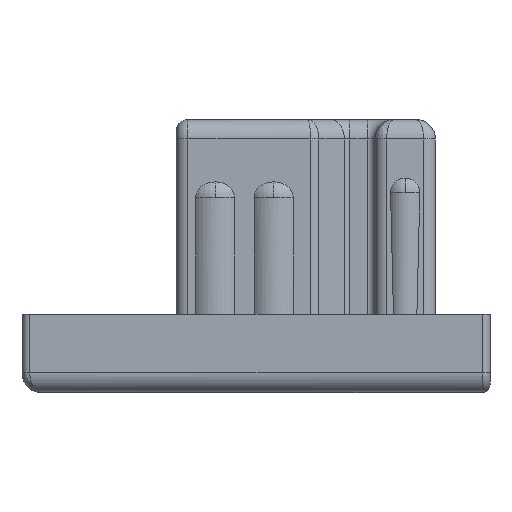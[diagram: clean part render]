
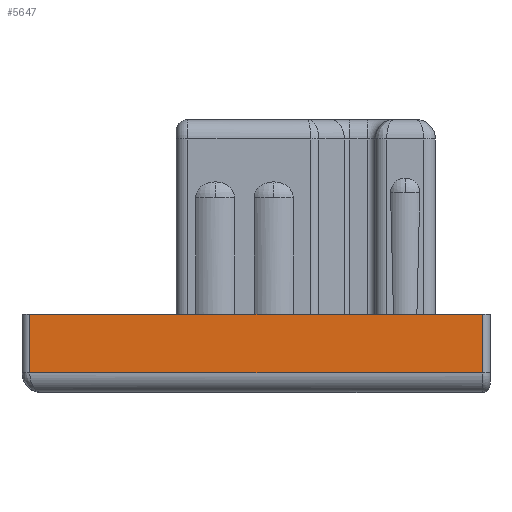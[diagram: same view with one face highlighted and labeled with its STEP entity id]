
A CAD part, left-side view. The second image highlights one B-rep face of the part: STEP entity #5647.
In plain terms, the highlighted planar face has unit normal (-1, 0, 0).
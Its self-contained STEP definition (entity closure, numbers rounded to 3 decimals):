
#30 = EDGE_CURVE ( 'NONE', #6288, #5274, #2750, .T. ) ;
#362 = DIRECTION ( 'NONE',  ( 1., 0., 0. ) ) ;
#562 = ORIENTED_EDGE ( 'NONE', *, *, #3655, .T. ) ;
#1160 = PLANE ( 'NONE',  #5061 ) ;
#1187 = VECTOR ( 'NONE', #1803, 1000. ) ;
#1803 = DIRECTION ( 'NONE',  ( 0., -1., 0. ) ) ;
#1935 = FACE_OUTER_BOUND ( 'NONE', #7977, .T. ) ;
#2003 = VECTOR ( 'NONE', #4057, 1000. ) ;
#2312 = CARTESIAN_POINT ( 'NONE',  ( -6.5, 12., 0.5 ) ) ;
#2544 = CARTESIAN_POINT ( 'NONE',  ( -6.5, 0.2, 2. ) ) ;
#2750 = LINE ( 'NONE', #10509, #1187 ) ;
#3655 = EDGE_CURVE ( 'NONE', #4766, #5274, #11047, .T. ) ;
#3810 = EDGE_CURVE ( 'NONE', #7503, #4766, #5664, .T. ) ;
#4057 = DIRECTION ( 'NONE',  ( 0., -1., 0. ) ) ;
#4282 = CARTESIAN_POINT ( 'NONE',  ( -6.5, 0.2, 0.5 ) ) ;
#4515 = VECTOR ( 'NONE', #5949, 1000. ) ;
#4536 = ORIENTED_EDGE ( 'NONE', *, *, #30, .F. ) ;
#4648 = CARTESIAN_POINT ( 'NONE',  ( -6.5, 11.8, 2. ) ) ;
#4766 = VERTEX_POINT ( 'NONE', #4282 ) ;
#5061 = AXIS2_PLACEMENT_3D ( 'NONE', #5382, #362, #7170 ) ;
#5092 = ORIENTED_EDGE ( 'NONE', *, *, #3810, .T. ) ;
#5132 = CARTESIAN_POINT ( 'NONE',  ( -6.5, 11.8, 0.5 ) ) ;
#5274 = VERTEX_POINT ( 'NONE', #6466 ) ;
#5382 = CARTESIAN_POINT ( 'NONE',  ( -6.5, 12., 2. ) ) ;
#5647 = ADVANCED_FACE ( 'NONE', ( #1935 ), #1160, .F. ) ;
#5664 = LINE ( 'NONE', #2312, #2003 ) ;
#5949 = DIRECTION ( 'NONE',  ( 0., 0., 1. ) ) ;
#6062 = EDGE_CURVE ( 'NONE', #6288, #7503, #9951, .T. ) ;
#6288 = VERTEX_POINT ( 'NONE', #10391 ) ;
#6466 = CARTESIAN_POINT ( 'NONE',  ( -6.5, 0.2, 2. ) ) ;
#7170 = DIRECTION ( 'NONE',  ( 0., 1., 0. ) ) ;
#7503 = VERTEX_POINT ( 'NONE', #5132 ) ;
#7515 = VECTOR ( 'NONE', #8211, 1000. ) ;
#7824 = ORIENTED_EDGE ( 'NONE', *, *, #6062, .T. ) ;
#7977 = EDGE_LOOP ( 'NONE', ( #5092, #562, #4536, #7824 ) ) ;
#8211 = DIRECTION ( 'NONE',  ( 0., 0., -1. ) ) ;
#9951 = LINE ( 'NONE', #4648, #7515 ) ;
#10391 = CARTESIAN_POINT ( 'NONE',  ( -6.5, 11.8, 2. ) ) ;
#10509 = CARTESIAN_POINT ( 'NONE',  ( -6.5, 12., 2. ) ) ;
#11047 = LINE ( 'NONE', #2544, #4515 ) ;
